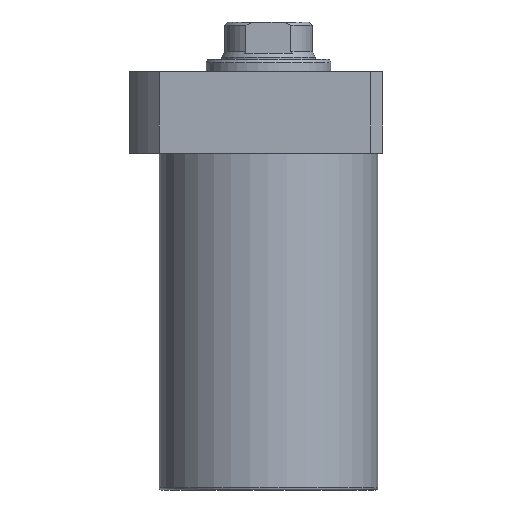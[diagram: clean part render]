
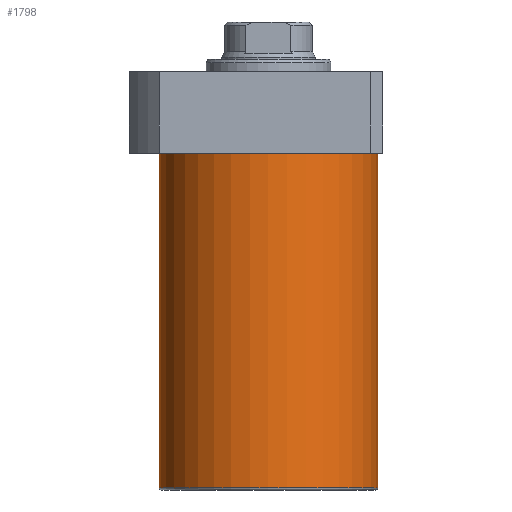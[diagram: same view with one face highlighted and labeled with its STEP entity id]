
A CAD part, front view. The second image highlights one B-rep face of the part: STEP entity #1798.
In plain terms, the highlighted cylindrical face has radius 52.5 mm (diameter 105 mm), a partial arc.
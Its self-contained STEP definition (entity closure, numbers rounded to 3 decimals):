
#24 = LINE ( 'NONE', #270, #679 ) ;
#51 = AXIS2_PLACEMENT_3D ( 'NONE', #93, #903, #413 ) ;
#93 = CARTESIAN_POINT ( 'NONE',  ( 0., 0., -180.5 ) ) ;
#131 = DIRECTION ( 'NONE',  ( 1., 0., 0. ) ) ;
#155 = ORIENTED_EDGE ( 'NONE', *, *, #338, .T. ) ;
#198 = CARTESIAN_POINT ( 'NONE',  ( 52.5, 0., -19.5 ) ) ;
#260 = EDGE_CURVE ( 'NONE', #724, #1747, #787, .T. ) ;
#270 = CARTESIAN_POINT ( 'NONE',  ( -52.5, 0., -181.5 ) ) ;
#338 = EDGE_CURVE ( 'NONE', #1747, #948, #761, .T. ) ;
#410 = VECTOR ( 'NONE', #1160, 1000. ) ;
#413 = DIRECTION ( 'NONE',  ( -1., 0., 0. ) ) ;
#445 = CYLINDRICAL_SURFACE ( 'NONE', #1236, 52.5 ) ;
#645 = ORIENTED_EDGE ( 'NONE', *, *, #737, .F. ) ;
#679 = VECTOR ( 'NONE', #1662, 1000. ) ;
#720 = EDGE_LOOP ( 'NONE', ( #645, #1816, #155, #763 ) ) ;
#724 = VERTEX_POINT ( 'NONE', #1670 ) ;
#737 = EDGE_CURVE ( 'NONE', #724, #803, #24, .T. ) ;
#758 = CIRCLE ( 'NONE', #1569, 52.5 ) ;
#761 = LINE ( 'NONE', #862, #410 ) ;
#763 = ORIENTED_EDGE ( 'NONE', *, *, #1957, .T. ) ;
#777 = DIRECTION ( 'NONE',  ( 0., 0., 1. ) ) ;
#787 = CIRCLE ( 'NONE', #51, 52.5 ) ;
#803 = VERTEX_POINT ( 'NONE', #1842 ) ;
#862 = CARTESIAN_POINT ( 'NONE',  ( 52.5, 0., -181.5 ) ) ;
#903 = DIRECTION ( 'NONE',  ( 0., 0., 1. ) ) ;
#908 = CARTESIAN_POINT ( 'NONE',  ( 0., 0., -181.5 ) ) ;
#948 = VERTEX_POINT ( 'NONE', #198 ) ;
#1160 = DIRECTION ( 'NONE',  ( 0., 0., 1. ) ) ;
#1235 = CARTESIAN_POINT ( 'NONE',  ( 0., 0., -19.5 ) ) ;
#1236 = AXIS2_PLACEMENT_3D ( 'NONE', #908, #777, #131 ) ;
#1249 = DIRECTION ( 'NONE',  ( 1., 0., 0. ) ) ;
#1500 = CARTESIAN_POINT ( 'NONE',  ( 52.5, 0., -180.5 ) ) ;
#1569 = AXIS2_PLACEMENT_3D ( 'NONE', #1235, #1705, #1249 ) ;
#1662 = DIRECTION ( 'NONE',  ( 0., 0., 1. ) ) ;
#1670 = CARTESIAN_POINT ( 'NONE',  ( -52.5, 0., -180.5 ) ) ;
#1705 = DIRECTION ( 'NONE',  ( 0., 0., -1. ) ) ;
#1747 = VERTEX_POINT ( 'NONE', #1500 ) ;
#1798 = ADVANCED_FACE ( 'NONE', ( #1919 ), #445, .T. ) ;
#1816 = ORIENTED_EDGE ( 'NONE', *, *, #260, .T. ) ;
#1842 = CARTESIAN_POINT ( 'NONE',  ( -52.5, 0., -19.5 ) ) ;
#1919 = FACE_OUTER_BOUND ( 'NONE', #720, .T. ) ;
#1957 = EDGE_CURVE ( 'NONE', #948, #803, #758, .T. ) ;
